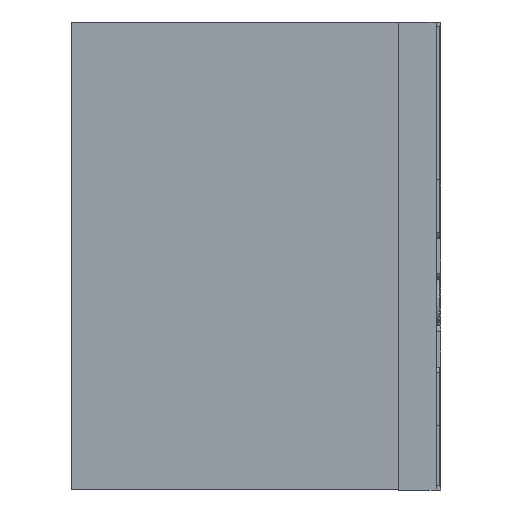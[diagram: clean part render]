
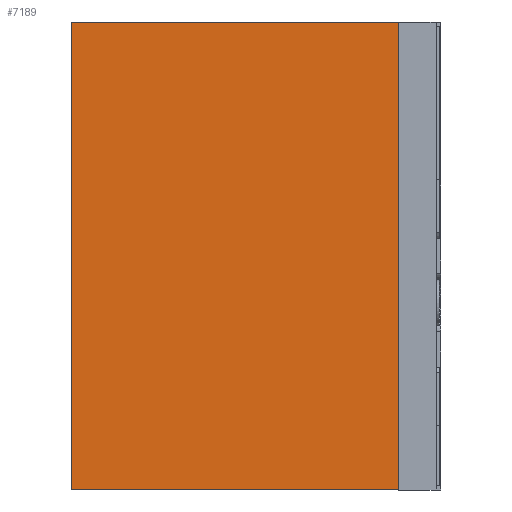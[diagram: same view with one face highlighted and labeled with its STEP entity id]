
A CAD part, left-side view. The second image highlights one B-rep face of the part: STEP entity #7189.
In plain terms, the highlighted planar face has unit normal (-1, 0, 0).
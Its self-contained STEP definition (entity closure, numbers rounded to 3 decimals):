
#472 = EDGE_CURVE ( 'NONE', #7090, #15706, #19891, .T. ) ;
#853 = EDGE_CURVE ( 'NONE', #20001, #7090, #18678, .T. ) ;
#888 = CARTESIAN_POINT ( 'NONE',  ( 0., 0., 0. ) ) ;
#1045 = VECTOR ( 'NONE', #19647, 1000. ) ;
#1096 = PLANE ( 'NONE',  #22582 ) ;
#1999 = CARTESIAN_POINT ( 'NONE',  ( 0., 3.556, -5.08 ) ) ;
#3706 = ORIENTED_EDGE ( 'NONE', *, *, #9918, .T. ) ;
#5250 = ORIENTED_EDGE ( 'NONE', *, *, #17121, .T. ) ;
#5471 = CARTESIAN_POINT ( 'NONE',  ( 0., 3.556, -5.08 ) ) ;
#6664 = CARTESIAN_POINT ( 'NONE',  ( 0., 3.556, -5.08 ) ) ;
#7090 = VERTEX_POINT ( 'NONE', #13168 ) ;
#7189 = ADVANCED_FACE ( 'NONE', ( #8565 ), #1096, .F. ) ;
#7380 = CARTESIAN_POINT ( 'NONE',  ( 0., 3.556, 0. ) ) ;
#7397 = CARTESIAN_POINT ( 'NONE',  ( 0., 0., -5.08 ) ) ;
#8386 = VECTOR ( 'NONE', #18018, 1000. ) ;
#8565 = FACE_OUTER_BOUND ( 'NONE', #12969, .T. ) ;
#8678 = DIRECTION ( 'NONE',  ( 1., 0., 0. ) ) ;
#9207 = ORIENTED_EDGE ( 'NONE', *, *, #472, .F. ) ;
#9288 = VECTOR ( 'NONE', #9709, 1000. ) ;
#9709 = DIRECTION ( 'NONE',  ( 0., 0., 1. ) ) ;
#9918 = EDGE_CURVE ( 'NONE', #13302, #15706, #16043, .T. ) ;
#10334 = LINE ( 'NONE', #5471, #8386 ) ;
#12507 = DIRECTION ( 'NONE',  ( 0., 0., 1. ) ) ;
#12969 = EDGE_LOOP ( 'NONE', ( #3706, #9207, #14901, #5250 ) ) ;
#13168 = CARTESIAN_POINT ( 'NONE',  ( 0., 3.556, 0. ) ) ;
#13302 = VERTEX_POINT ( 'NONE', #7397 ) ;
#14195 = VECTOR ( 'NONE', #12507, 1000. ) ;
#14901 = ORIENTED_EDGE ( 'NONE', *, *, #853, .F. ) ;
#15706 = VERTEX_POINT ( 'NONE', #888 ) ;
#16043 = LINE ( 'NONE', #21280, #14195 ) ;
#17121 = EDGE_CURVE ( 'NONE', #20001, #13302, #10334, .T. ) ;
#18018 = DIRECTION ( 'NONE',  ( 0., -1., 0. ) ) ;
#18678 = LINE ( 'NONE', #1999, #9288 ) ;
#19647 = DIRECTION ( 'NONE',  ( 0., -1., 0. ) ) ;
#19891 = LINE ( 'NONE', #7380, #1045 ) ;
#20001 = VERTEX_POINT ( 'NONE', #20678 ) ;
#20678 = CARTESIAN_POINT ( 'NONE',  ( 0., 3.556, -5.08 ) ) ;
#21280 = CARTESIAN_POINT ( 'NONE',  ( 0., 0., -5.08 ) ) ;
#22582 = AXIS2_PLACEMENT_3D ( 'NONE', #6664, #8678, #22985 ) ;
#22985 = DIRECTION ( 'NONE',  ( 0., 0., -1. ) ) ;
